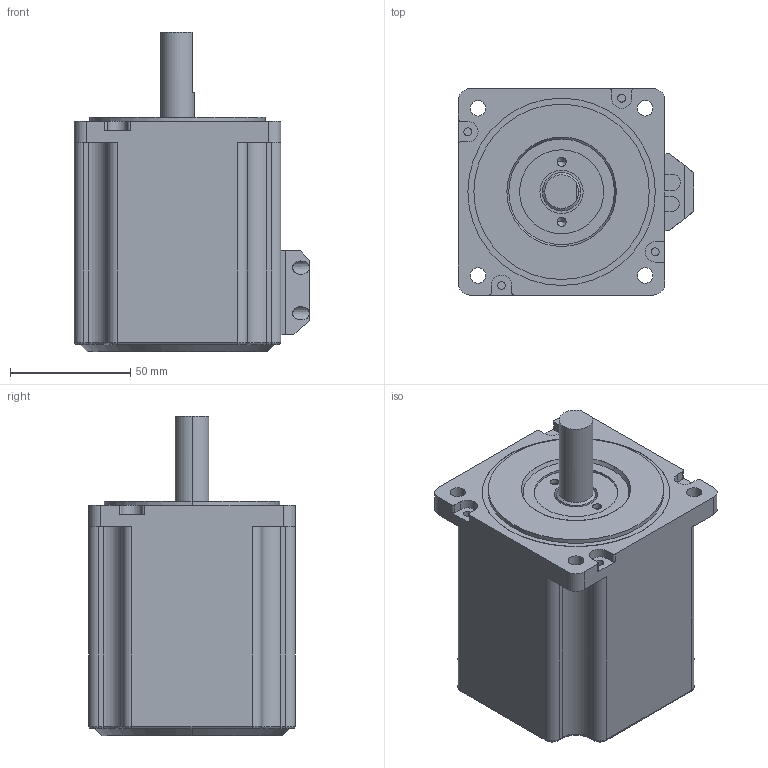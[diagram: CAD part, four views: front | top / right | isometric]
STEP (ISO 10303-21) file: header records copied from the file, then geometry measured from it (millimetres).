
FILE_DESCRIPTION((''),'2;1');
FILE_NAME('QL86HS80','2022-03-12T14:23:38',('qingl'),(''),'CREO PARAMETRIC BY PTC INC, 2019224','CREO PARAMETRIC BY PTC INC, 2019224','');
FILE_SCHEMA(('CONFIG_CONTROL_DESIGN'));
Length unit declared in the file: millimetre
Products named in the file (1): QL86HS80
Bounding box: 98 x 86 x 133 mm (x, y, z)
Volume: 653838.1 mm3; surface area: 49979.8 mm2
Topology: 1 solids, 1 shells, 338 faces, 910 edges, 600 vertices
Faces by surface type: cylinder 228, plane 72, cone 18, torus 12, bspline 8
Entity records: 15670 total; most frequent: CARTESIAN_POINT 7548, ORIENTED_EDGE 1820, DIRECTION 1488, EDGE_CURVE 910, VERTEX_POINT 600, AXIS2_PLACEMENT_3D 560, EDGE_LOOP 372, VECTOR 368
